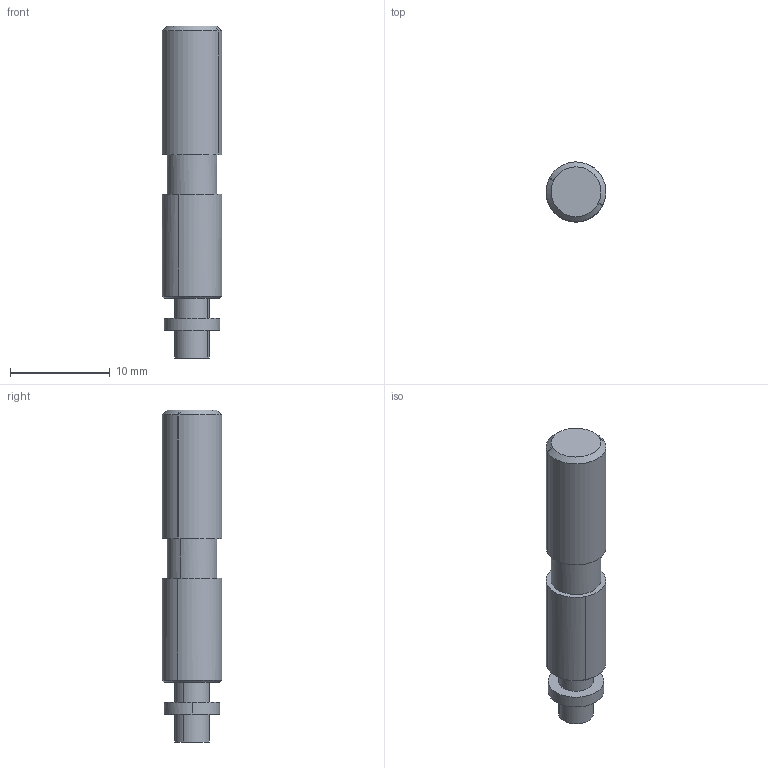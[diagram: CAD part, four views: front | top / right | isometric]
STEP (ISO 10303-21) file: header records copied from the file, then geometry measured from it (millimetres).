
FILE_DESCRIPTION(('CATIA V5 STEP Exchange'),'2;1');
FILE_NAME('D:\Gao Bingchuan\02-重卡\滑轨\OUTPUT\10-更改评估数据\03-新开件\SHT0017273.stp','2025-03-13T07:30:08+00:00',('none'),('none'),'CATIA Version 5 Release 20 GA (IN-10)','CATIA V5 STEP AP203 Edition 2','none');
FILE_SCHEMA(('AP203_CONFIGURATION_CONTROLLED_3D_DESIGN_OF_MECHANICAL_PARTS_AND_ASSEMBLIES_MIM_LF { 1 0 10303 403 2 1 2}'));
Length unit declared in the file: millimetre
Products named in the file (1): SHT0017273
Bounding box: 6 x 6 x 33.3 mm (x, y, z)
Surface area: 1274.6 mm2
Topology: 2 solids, 2 shells, 57 faces, 128 edges, 82 vertices
Faces by surface type: cylinder 30, cone 16, plane 11
Entity records: 1404 total; most frequent: CARTESIAN_POINT 354, ORIENTED_EDGE 256, DIRECTION 98, EDGE_CURVE 71, EDGE_LOOP 64, ADVANCED_FACE 57, FACE_OUTER_BOUND 57, VERTEX_POINT 45
